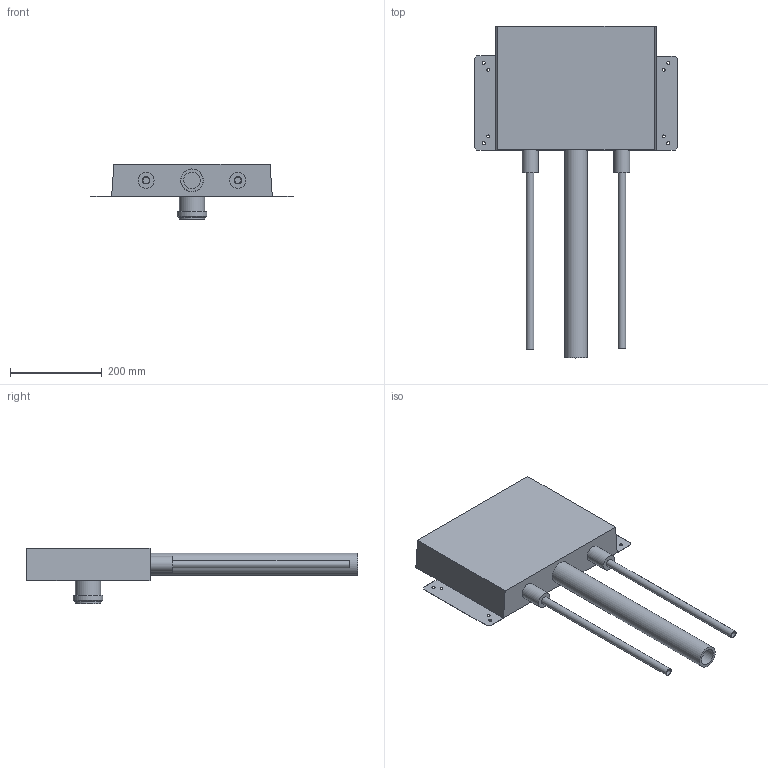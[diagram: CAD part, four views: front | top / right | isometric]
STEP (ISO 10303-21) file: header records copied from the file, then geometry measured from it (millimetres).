
FILE_DESCRIPTION(/* description */ (''),/* implementation_level */ '2;1');
FILE_NAME(/* name */ '\\LG50011\SANHA_Legnica\Engineering\Public\PROJEKTY\SANHA-BOX_Support_BiR\002-Rysunki_Boxów\25-ST-T\Zespół-25STT16.stp',/* time_stamp */ '2018-11-05T14:32:59+01:00',/* author */ ('gomulka'),/* organization */ (''),/* preprocessor_version */ 'ST-DEVELOPER v16.13',/* originating_system */ 'Autodesk Inventor 2018',/* authorisation */ '');
FILE_SCHEMA (('AUTOMOTIVE_DESIGN { 1 0 10303 214 3 1 1 }'));
Length unit declared in the file: millimetre
Products named in the file (6): Zespół-25STT16; 325STT16; Rura_50; Rura_16x2; Plyta1; Kolano_DN50-OD50
Assembly tree (7 placements, depth 2):
  Zespół-25STT16
    325STT16
    Rura_50
    Rura_16x2  x2
    Plyta1  x2
    Kolano_DN50-OD50
Bounding box: 441.91 x 722.91 x 120.88 mm (x, y, z)
Volume: 7016253.5 mm3; surface area: 587718.4 mm2
Topology: 7 solids, 7 shells, 148 faces, 340 edges, 226 vertices
Faces by surface type: plane 102, cylinder 28, bspline 16, cone 2
Full cylindrical faces by diameter (mm): 6.1 x4, 7 x4, 14 x2, 16 x4, 18.631 x2, 21 x2, 35 x2, 35.993 x1, 48.5 x1, 50 x1, 51 x1, 55 x3, 65 x1
Entity records: 3972 total; most frequent: CARTESIAN_POINT 835, ORIENTED_EDGE 560, DIRECTION 552, EDGE_CURVE 280, LINE 202, VECTOR 202, VERTEX_POINT 202, EDGE_LOOP 190
